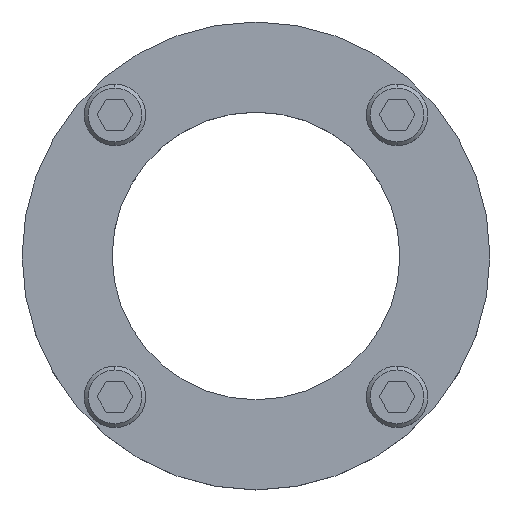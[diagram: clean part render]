
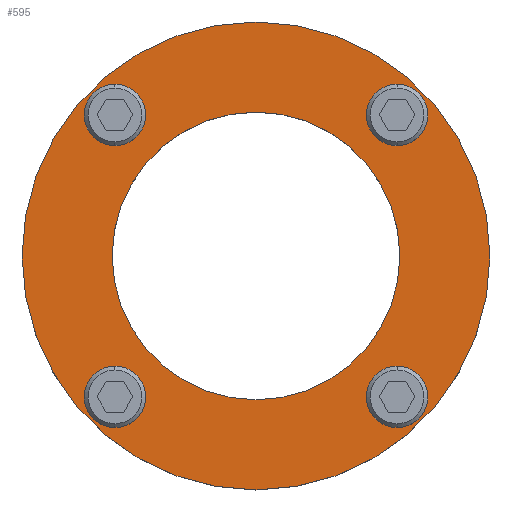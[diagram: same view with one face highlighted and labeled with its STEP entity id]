
A CAD part, top view. The second image highlights one B-rep face of the part: STEP entity #595.
In plain terms, the highlighted planar face has unit normal (0, 0, 1).
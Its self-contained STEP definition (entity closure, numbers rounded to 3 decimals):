
#595=ADVANCED_FACE('',(#779,#780,#781,#782,#783,#784),#725,.T.);
#725=PLANE('',#2192);
#779=FACE_BOUND('',#839,.T.);
#780=FACE_BOUND('',#840,.T.);
#781=FACE_BOUND('',#841,.T.);
#782=FACE_BOUND('',#842,.T.);
#783=FACE_BOUND('',#843,.T.);
#784=FACE_BOUND('',#844,.T.);
#839=EDGE_LOOP('',(#1007,#1008));
#840=EDGE_LOOP('',(#1009,#1010));
#841=EDGE_LOOP('',(#1011,#1012));
#842=EDGE_LOOP('',(#1013,#1014));
#843=EDGE_LOOP('',(#1015,#1016));
#844=EDGE_LOOP('',(#1017,#1018));
#1007=ORIENTED_EDGE('',*,*,#1759,.T.);
#1008=ORIENTED_EDGE('',*,*,#1760,.T.);
#1009=ORIENTED_EDGE('',*,*,#1761,.T.);
#1010=ORIENTED_EDGE('',*,*,#1762,.T.);
#1011=ORIENTED_EDGE('',*,*,#1763,.T.);
#1012=ORIENTED_EDGE('',*,*,#1764,.T.);
#1013=ORIENTED_EDGE('',*,*,#1765,.T.);
#1014=ORIENTED_EDGE('',*,*,#1766,.T.);
#1015=ORIENTED_EDGE('',*,*,#1767,.T.);
#1016=ORIENTED_EDGE('',*,*,#1768,.T.);
#1017=ORIENTED_EDGE('',*,*,#1769,.T.);
#1018=ORIENTED_EDGE('',*,*,#1770,.T.);
#1575=VERTEX_POINT('',#3130);
#1576=VERTEX_POINT('',#3131);
#1577=VERTEX_POINT('',#3134);
#1578=VERTEX_POINT('',#3135);
#1579=VERTEX_POINT('',#3138);
#1580=VERTEX_POINT('',#3139);
#1581=VERTEX_POINT('',#3142);
#1582=VERTEX_POINT('',#3143);
#1583=VERTEX_POINT('',#3146);
#1584=VERTEX_POINT('',#3147);
#1585=VERTEX_POINT('',#3150);
#1586=VERTEX_POINT('',#3151);
#1759=EDGE_CURVE('',#1575,#1576,#2043,.T.);
#1760=EDGE_CURVE('',#1576,#1575,#2044,.T.);
#1761=EDGE_CURVE('',#1577,#1578,#2045,.T.);
#1762=EDGE_CURVE('',#1578,#1577,#2046,.T.);
#1763=EDGE_CURVE('',#1579,#1580,#2047,.T.);
#1764=EDGE_CURVE('',#1580,#1579,#2048,.T.);
#1765=EDGE_CURVE('',#1581,#1582,#2049,.T.);
#1766=EDGE_CURVE('',#1582,#1581,#2050,.T.);
#1767=EDGE_CURVE('',#1583,#1584,#2051,.T.);
#1768=EDGE_CURVE('',#1584,#1583,#2052,.T.);
#1769=EDGE_CURVE('',#1585,#1586,#2053,.T.);
#1770=EDGE_CURVE('',#1586,#1585,#2054,.T.);
#2043=CIRCLE('',#2180,61.);
#2044=CIRCLE('',#2181,61.);
#2045=CIRCLE('',#2182,5.5);
#2046=CIRCLE('',#2183,5.5);
#2047=CIRCLE('',#2184,5.5);
#2048=CIRCLE('',#2185,5.5);
#2049=CIRCLE('',#2186,5.5);
#2050=CIRCLE('',#2187,5.5);
#2051=CIRCLE('',#2188,5.5);
#2052=CIRCLE('',#2189,5.5);
#2053=CIRCLE('',#2190,37.5);
#2054=CIRCLE('',#2191,37.5);
#2180=AXIS2_PLACEMENT_3D('',#3129,#2448,#2449);
#2181=AXIS2_PLACEMENT_3D('',#3132,#2450,#2451);
#2182=AXIS2_PLACEMENT_3D('',#3133,#2452,#2453);
#2183=AXIS2_PLACEMENT_3D('',#3136,#2454,#2455);
#2184=AXIS2_PLACEMENT_3D('',#3137,#2456,#2457);
#2185=AXIS2_PLACEMENT_3D('',#3140,#2458,#2459);
#2186=AXIS2_PLACEMENT_3D('',#3141,#2460,#2461);
#2187=AXIS2_PLACEMENT_3D('',#3144,#2462,#2463);
#2188=AXIS2_PLACEMENT_3D('',#3145,#2464,#2465);
#2189=AXIS2_PLACEMENT_3D('',#3148,#2466,#2467);
#2190=AXIS2_PLACEMENT_3D('',#3149,#2468,#2469);
#2191=AXIS2_PLACEMENT_3D('',#3152,#2470,#2471);
#2192=AXIS2_PLACEMENT_3D('',#3153,#2472,#2473);
#2448=DIRECTION('',(0.,0.,1.));
#2449=DIRECTION('',(1.,0.,0.));
#2450=DIRECTION('',(0.,0.,1.));
#2451=DIRECTION('',(-1.,0.,0.));
#2452=DIRECTION('',(0.,0.,-1.));
#2453=DIRECTION('',(-1.,0.,0.));
#2454=DIRECTION('',(0.,0.,-1.));
#2455=DIRECTION('',(1.,0.,0.));
#2456=DIRECTION('',(0.,0.,-1.));
#2457=DIRECTION('',(-1.,0.,0.));
#2458=DIRECTION('',(0.,0.,-1.));
#2459=DIRECTION('',(1.,0.,0.));
#2460=DIRECTION('',(0.,0.,-1.));
#2461=DIRECTION('',(-1.,0.,0.));
#2462=DIRECTION('',(0.,0.,-1.));
#2463=DIRECTION('',(1.,0.,0.));
#2464=DIRECTION('',(0.,0.,-1.));
#2465=DIRECTION('',(-1.,0.,0.));
#2466=DIRECTION('',(0.,0.,-1.));
#2467=DIRECTION('',(1.,0.,0.));
#2468=DIRECTION('',(0.,0.,-1.));
#2469=DIRECTION('',(-1.,0.,0.));
#2470=DIRECTION('',(0.,0.,-1.));
#2471=DIRECTION('',(1.,0.,0.));
#2472=DIRECTION('',(0.,0.,1.));
#2473=DIRECTION('',(0.,-1.,0.));
#3129=CARTESIAN_POINT('',(0.,0.,16.));
#3130=CARTESIAN_POINT('',(0.,61.,16.));
#3131=CARTESIAN_POINT('',(0.,-61.,16.));
#3132=CARTESIAN_POINT('',(0.,0.,16.));
#3133=CARTESIAN_POINT('',(36.789,-36.75,16.));
#3134=CARTESIAN_POINT('',(36.789,-31.25,16.));
#3135=CARTESIAN_POINT('',(36.789,-42.25,16.));
#3136=CARTESIAN_POINT('',(36.789,-36.75,16.));
#3137=CARTESIAN_POINT('',(36.789,36.75,16.));
#3138=CARTESIAN_POINT('',(36.789,42.25,16.));
#3139=CARTESIAN_POINT('',(36.789,31.25,16.));
#3140=CARTESIAN_POINT('',(36.789,36.75,16.));
#3141=CARTESIAN_POINT('',(-36.789,36.75,16.));
#3142=CARTESIAN_POINT('',(-36.789,42.25,16.));
#3143=CARTESIAN_POINT('',(-36.789,31.25,16.));
#3144=CARTESIAN_POINT('',(-36.789,36.75,16.));
#3145=CARTESIAN_POINT('',(-36.789,-36.75,16.));
#3146=CARTESIAN_POINT('',(-36.789,-31.25,16.));
#3147=CARTESIAN_POINT('',(-36.789,-42.25,16.));
#3148=CARTESIAN_POINT('',(-36.789,-36.75,16.));
#3149=CARTESIAN_POINT('',(0.,0.,16.));
#3150=CARTESIAN_POINT('',(0.,37.5,16.));
#3151=CARTESIAN_POINT('',(0.,-37.5,16.));
#3152=CARTESIAN_POINT('',(0.,0.,16.));
#3153=CARTESIAN_POINT('',(61.,0.,16.));
